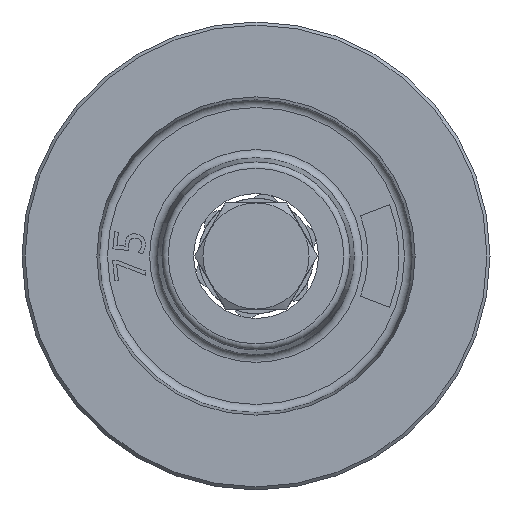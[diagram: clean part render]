
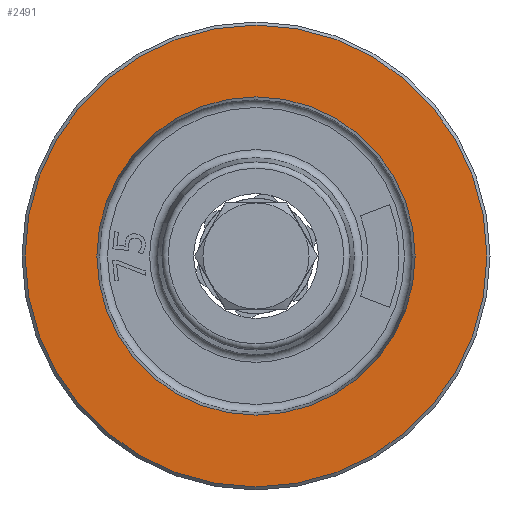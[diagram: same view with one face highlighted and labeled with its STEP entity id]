
A CAD part, left-side view. The second image highlights one B-rep face of the part: STEP entity #2491.
In plain terms, the highlighted planar face has unit normal (-1, 0, 0) as drawn and (1, 0, 0) by its records, which use the part's own axes.
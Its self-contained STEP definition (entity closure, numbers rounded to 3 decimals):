
#145=FACE_BOUND('',#623,.T.);
#192=CIRCLE('',#2796,25.5);
#210=CIRCLE('',#2825,37.);
#460=FACE_OUTER_BOUND('',#622,.T.);
#622=EDGE_LOOP('',(#1906));
#623=EDGE_LOOP('',(#1907));
#1135=VERTEX_POINT('',#4244);
#1149=VERTEX_POINT('',#4291);
#1401=EDGE_CURVE('',#1135,#1135,#192,.T.);
#1422=EDGE_CURVE('',#1149,#1149,#210,.T.);
#1906=ORIENTED_EDGE('',*,*,#1422,.F.);
#1907=ORIENTED_EDGE('',*,*,#1401,.T.);
#2399=PLANE('',#2824);
#2491=ADVANCED_FACE('',(#460,#145),#2399,.T.);
#2796=AXIS2_PLACEMENT_3D('',#4246,#3220,#3221);
#2824=AXIS2_PLACEMENT_3D('',#4290,#3279,#3280);
#2825=AXIS2_PLACEMENT_3D('',#4292,#3281,#3282);
#3220=DIRECTION('center_axis',(-1.,0.,0.));
#3221=DIRECTION('ref_axis',(0.,-1.,0.));
#3279=DIRECTION('center_axis',(1.,0.,0.));
#3280=DIRECTION('ref_axis',(0.,0.,-1.));
#3281=DIRECTION('center_axis',(-1.,0.,0.));
#3282=DIRECTION('ref_axis',(0.,-1.,0.));
#4244=CARTESIAN_POINT('',(9.5,25.5,0.));
#4246=CARTESIAN_POINT('Origin',(9.5,0.,0.));
#4290=CARTESIAN_POINT('Origin',(9.5,-31.25,0.));
#4291=CARTESIAN_POINT('',(9.5,37.,0.));
#4292=CARTESIAN_POINT('Origin',(9.5,0.,0.));
